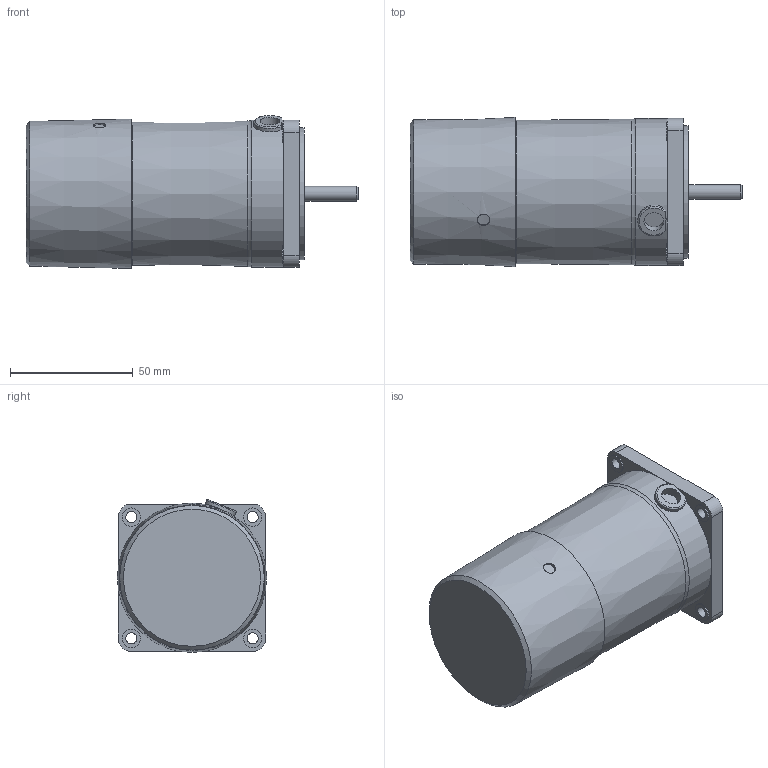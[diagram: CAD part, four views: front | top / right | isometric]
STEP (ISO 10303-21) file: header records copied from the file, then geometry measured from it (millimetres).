
FILE_DESCRIPTION((''),'2;1');
FILE_NAME('D:\STP파일\6W MOTOR\BLACK TYPE\S6R06S-E.stp','2013-05-20T15:47:27',('leebh'),(''),'Autodesk Inventor 2011','Autodesk Inventor 2011','');
FILE_SCHEMA(('AUTOMOTIVE_DESIGN { 1 0 10303 214 1 1 1 1 }'));
Length unit declared in the file: millimetre
Products named in the file (1): 부품1
Bounding box: 135.5 x 60.94 x 62.38 mm (x, y, z)
Volume: 313946.6 mm3; surface area: 31161.5 mm2
Topology: 1 solids, 3 shells, 85 faces, 205 edges, 134 vertices
Faces by surface type: plane 46, cylinder 32, cone 5, torus 2
Full cylindrical faces by diameter (mm): 4.5 x4, 5 x1, 6 x1, 7.5 x4, 8 x1, 10.1 x1, 25 x1, 54 x1, 58.5 x1, 60 x1
Entity records: 2523 total; most frequent: CARTESIAN_POINT 526, DIRECTION 424, ORIENTED_EDGE 362, EDGE_CURVE 181, AXIS2_PLACEMENT_3D 166, VERTEX_POINT 131, EDGE_LOOP 128, VECTOR 92
